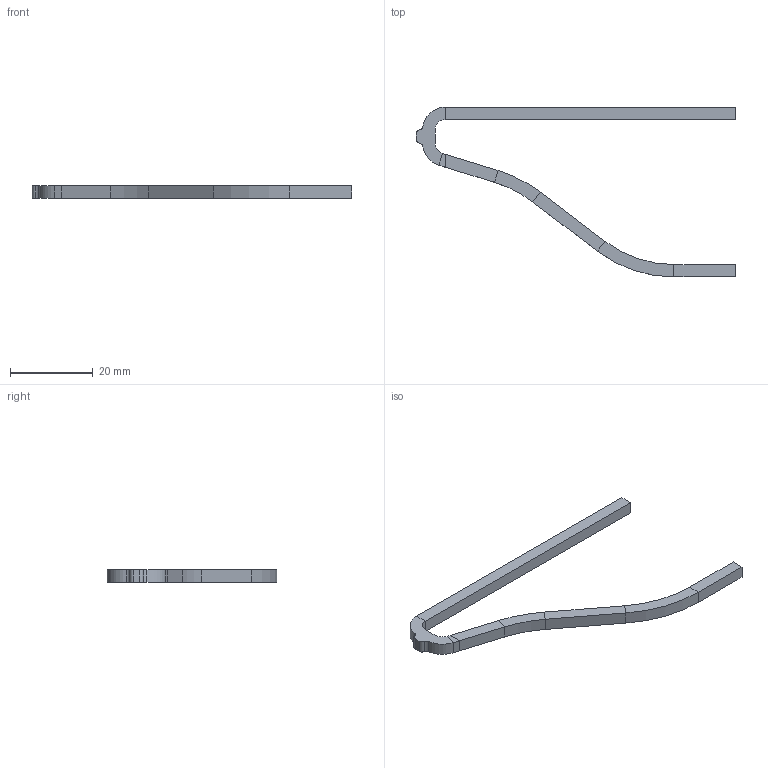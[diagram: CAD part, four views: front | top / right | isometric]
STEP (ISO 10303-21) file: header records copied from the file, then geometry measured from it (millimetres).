
FILE_DESCRIPTION( ( 'STEP Version 203' ), '1' );
FILE_NAME( ' ', '12/01/10 09:07:04', ( 'aho' ), ( ' ' ), 'PSStep 14.0', 'DesignModeler STEP Output', ' ' );
FILE_SCHEMA( ( 'AUTOMOTIVE_DESIGN { 1 0 10303 214 1 1 1 1 }' ) );
Length unit declared in the file: metre
Products named in the file (3): Top Leg; Tip; Bottom Leg
Bounding box: 77 x 41 x 3 mm (x, y, z)
Volume: 1481.8 mm3; surface area: 2025.4 mm2
Topology: 3 solids, 3 shells, 46 faces, 100 edges, 60 vertices
Faces by surface type: plane 34, cylinder 12
Entity records: 1299 total; most frequent: DIRECTION 226, CARTESIAN_POINT 217, ORIENTED_EDGE 208, EDGE_CURVE 104, LINE 80, VECTOR 80, AXIS2_PLACEMENT_3D 73, VERTEX_POINT 64
